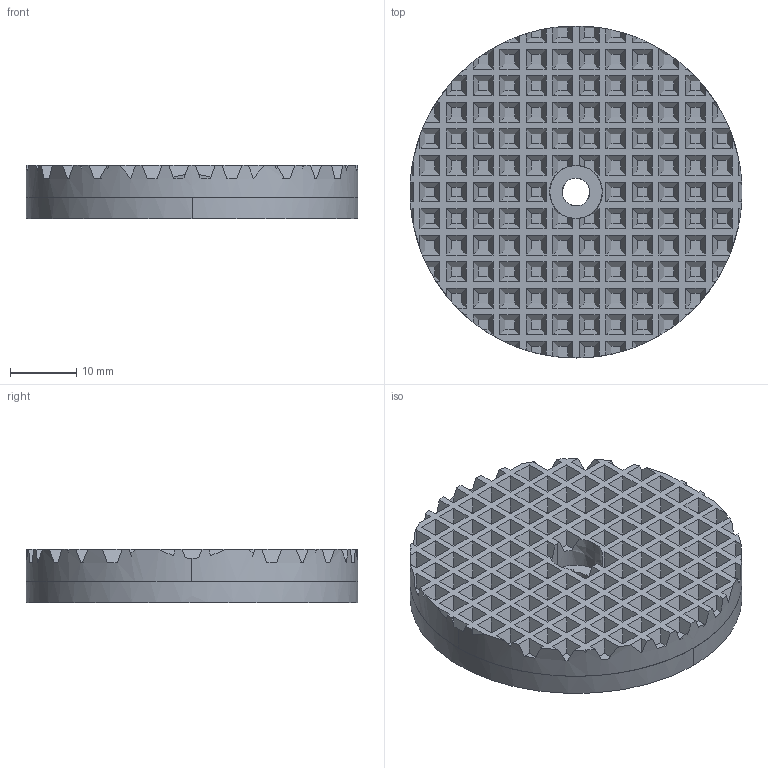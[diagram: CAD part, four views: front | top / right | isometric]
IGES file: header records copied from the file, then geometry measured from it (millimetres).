
Start section:  PTC IGES file: 370070_cp-016.igs
Global section: file name: 370070_cp-016.igs; native system: Pro/ENGINEER by Parametric Technology Corporation; preprocessor: 2004090; author: KAIHATSU01; organization: Unknown; date: 061017.092930; units: millimetre
Bounding box: 50 x 50 x 8 mm (x, y, z)
Volume: 14187.8 mm3; surface area: 6680.2 mm2
Topology: 1 solids, 1 shells, 664 faces, 1686 edges, 1124 vertices
Faces by surface type: bspline 664
